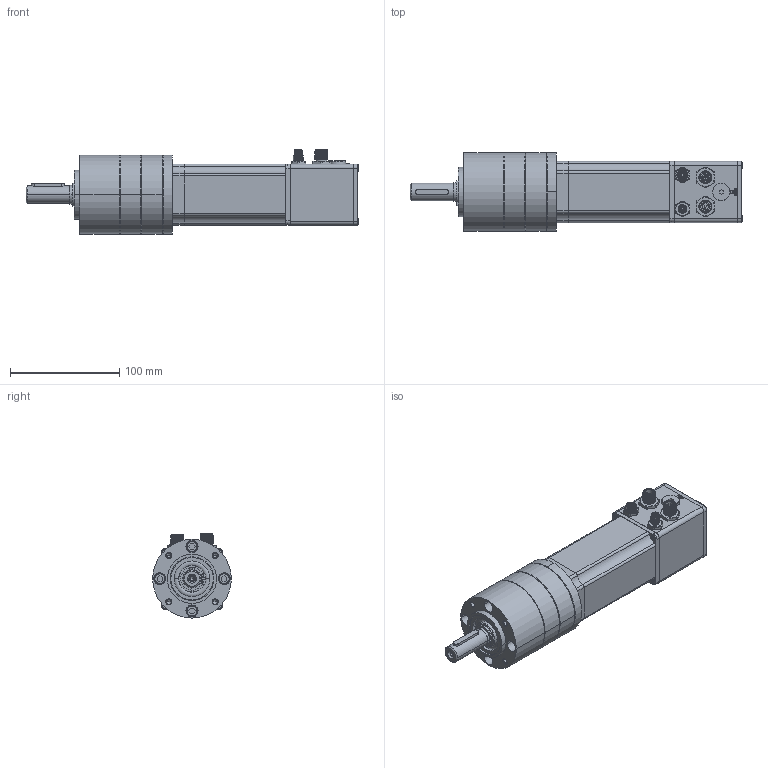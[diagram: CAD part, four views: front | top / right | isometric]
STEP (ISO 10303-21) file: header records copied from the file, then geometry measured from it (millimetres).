
FILE_DESCRIPTION (( 'STEP AP214' ), '1' );
FILE_NAME ('IDX56L_PM72 2 étages.STEP', '2020-02-14T14:12:28', ( '' ), ( '' ), 'SwSTEP 2.0', 'SolidWorks 2018', '' );
FILE_SCHEMA (( 'AUTOMOTIVE_DESIGN' ));
Length unit declared in the file: millimetre
Products named in the file (5): Vis_CHC_2__Vis CHC M5 x 8; PM72-2etages; 6576738_01_Adapt IDX56L_PM72; IDX56L_PM72 2 étages; B7B8186C2EA7
Assembly tree (7 placements, depth 2):
  IDX56L_PM72 2 étages
    B7B8186C2EA7
    6576738_01_Adapt IDX56L_PM72
    Vis_CHC_2__Vis CHC M5 x 8  x4
    PM72-2etages
Bounding box: 303.85 x 72 x 77 mm (x, y, z)
Volume: 550961.6 mm3; surface area: 206360 mm2
Topology: 55 solids, 92 shells, 2845 faces, 6918 edges, 4340 vertices
Faces by surface type: cylinder 984, plane 880, cone 795, bspline 110, torus 76
Entity records: 116790 total; most frequent: CARTESIAN_POINT 18257, DIRECTION 15216, ORIENTED_EDGE 13532, EDGE_CURVE 6784, AXIS2_PLACEMENT_3D 5882, VERTEX_POINT 4268, VECTOR 3452, LINE 3452
